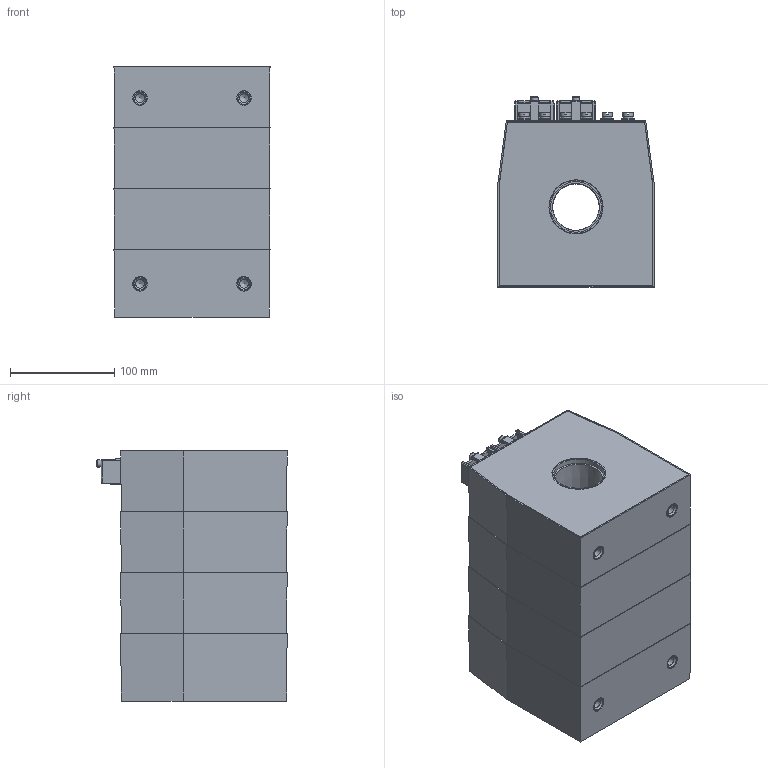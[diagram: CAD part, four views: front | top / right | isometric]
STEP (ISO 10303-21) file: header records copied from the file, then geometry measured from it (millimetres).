
FILE_DESCRIPTION(('STEP AP203'), '1');
FILE_NAME('ÒØÏ-ÍÒÇ-0,66-64À (45 ìì, 4-é ãàáàðèò)', '2025-08-27T09:31:00', ('UNSPECIFIED'), ('UNSPECIFIED'), 'ASCON STEP Converter 1.3', 'ASCON Math Kernel', '');
FILE_SCHEMA(('CONFIG_CONTROL_DESIGN'));
Length unit declared in the file: millimetre
Assembly tree (43 placements, depth 2):
  (unnamed)
    (unnamed)
    (unnamed)  x2
    (unnamed)
    (unnamed)  x4
    (unnamed)  x4
    (unnamed)  x2
    (unnamed)  x6
    (unnamed)  x2
    (unnamed)  x6
    (unnamed)  x6
    (unnamed)  x6
    (unnamed)  x2
    (unnamed)
Bounding box: 150 x 182.93 x 240.5 mm (x, y, z)
Volume: 784419.7 mm3; surface area: 524616.7 mm2
Topology: 43 solids, 43 shells, 700 faces, 1567 edges, 982 vertices
Faces by surface type: plane 381, cylinder 199, cone 84, torus 20, bspline 16
Full cylindrical faces by diameter (mm): 3.244 x2, 3.95 x2, 4 x6, 4.5 x2, 4.8 x6, 4.92 x6, 6 x18, 6.4 x6, 7 x2, 7.1 x4, 8 x2, 8.376 x4, 10 x12, 10.1 x6, 12 x12, 14 x8, 17 x4, 45 x1, 48.599 x8, 48.6 x1, 51 x1, 55.05 x1, 58.6 x1, 65.05 x1, 68.6 x1
Entity records: 14318 total; most frequent: CARTESIAN_POINT 2827, DIRECTION 1594, ORIENTED_EDGE 1398, EDGE_CURVE 699, AXIS2_PLACEMENT_3D 578, VERTEX_POINT 493, EDGE_LOOP 474, LINE 438
